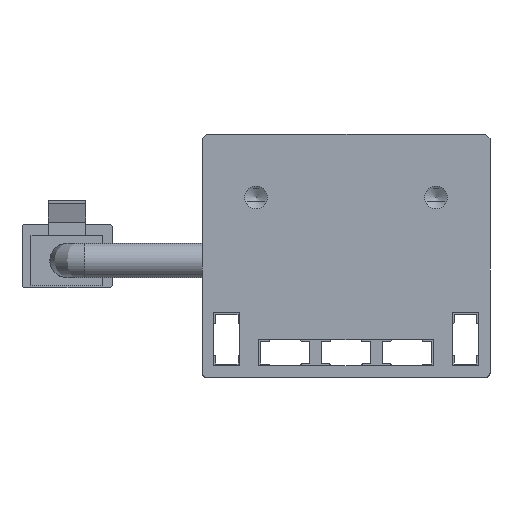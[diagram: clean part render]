
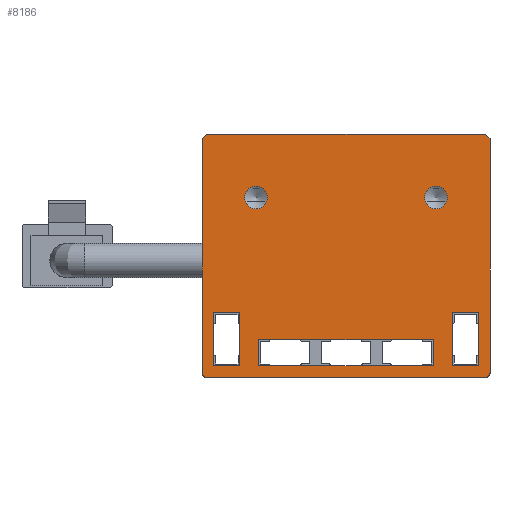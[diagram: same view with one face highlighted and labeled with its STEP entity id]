
A CAD part, front view. The second image highlights one B-rep face of the part: STEP entity #8186.
In plain terms, the highlighted planar face has unit normal (0, -1, 0).
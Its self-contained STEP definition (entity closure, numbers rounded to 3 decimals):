
#73=FACE_BOUND('',#1267,.T.);
#74=FACE_BOUND('',#1268,.T.);
#75=FACE_BOUND('',#1269,.T.);
#76=FACE_BOUND('',#1270,.T.);
#77=FACE_BOUND('',#1271,.T.);
#415=CIRCLE('',#8878,1.265);
#417=CIRCLE('',#8882,1.265);
#419=CIRCLE('',#8897,0.5);
#421=CIRCLE('',#8905,0.5);
#836=FACE_OUTER_BOUND('',#1266,.T.);
#1266=EDGE_LOOP('',(#7410,#7411,#7412,#7413,#7414,#7415,#7416,#7417));
#1267=EDGE_LOOP('',(#7418));
#1268=EDGE_LOOP('',(#7419));
#1269=EDGE_LOOP('',(#7420,#7421,#7422,#7423));
#1270=EDGE_LOOP('',(#7424,#7425,#7426,#7427));
#1271=EDGE_LOOP('',(#7428,#7429,#7430,#7431));
#2172=LINE('',#13450,#3109);
#2175=LINE('',#13456,#3112);
#2178=LINE('',#13462,#3115);
#2181=LINE('',#13466,#3118);
#2184=LINE('',#13474,#3121);
#2187=LINE('',#13480,#3124);
#2190=LINE('',#13486,#3127);
#2193=LINE('',#13490,#3130);
#2196=LINE('',#13498,#3133);
#2199=LINE('',#13504,#3136);
#2202=LINE('',#13510,#3139);
#2205=LINE('',#13514,#3142);
#2209=LINE('',#13528,#3146);
#2212=LINE('',#13534,#3149);
#2215=LINE('',#13540,#3152);
#2218=LINE('',#13546,#3155);
#2221=LINE('',#13552,#3158);
#2225=LINE('',#13562,#3162);
#3109=VECTOR('',#11065,10.);
#3112=VECTOR('',#11070,10.);
#3115=VECTOR('',#11075,10.);
#3118=VECTOR('',#11080,10.);
#3121=VECTOR('',#11085,10.);
#3124=VECTOR('',#11090,10.);
#3127=VECTOR('',#11095,10.);
#3130=VECTOR('',#11100,10.);
#3133=VECTOR('',#11105,10.);
#3136=VECTOR('',#11110,10.);
#3139=VECTOR('',#11115,10.);
#3142=VECTOR('',#11120,10.);
#3146=VECTOR('',#11132,10.);
#3149=VECTOR('',#11137,10.);
#3152=VECTOR('',#11142,10.);
#3155=VECTOR('',#11147,10.);
#3158=VECTOR('',#11152,10.);
#3162=VECTOR('',#11164,10.);
#3903=VERTEX_POINT('',#13431);
#3906=VERTEX_POINT('',#13440);
#3909=VERTEX_POINT('',#13447);
#3910=VERTEX_POINT('',#13449);
#3912=VERTEX_POINT('',#13455);
#3914=VERTEX_POINT('',#13461);
#3917=VERTEX_POINT('',#13471);
#3918=VERTEX_POINT('',#13473);
#3920=VERTEX_POINT('',#13479);
#3922=VERTEX_POINT('',#13485);
#3925=VERTEX_POINT('',#13495);
#3926=VERTEX_POINT('',#13497);
#3928=VERTEX_POINT('',#13503);
#3930=VERTEX_POINT('',#13509);
#3933=VERTEX_POINT('',#13519);
#3934=VERTEX_POINT('',#13521);
#3936=VERTEX_POINT('',#13527);
#3938=VERTEX_POINT('',#13533);
#3940=VERTEX_POINT('',#13539);
#3942=VERTEX_POINT('',#13545);
#3944=VERTEX_POINT('',#13551);
#3946=VERTEX_POINT('',#13557);
#5056=EDGE_CURVE('',#3903,#3903,#415,.T.);
#5060=EDGE_CURVE('',#3906,#3906,#417,.T.);
#5064=EDGE_CURVE('',#3910,#3909,#2172,.T.);
#5067=EDGE_CURVE('',#3912,#3910,#2175,.T.);
#5070=EDGE_CURVE('',#3914,#3912,#2178,.T.);
#5073=EDGE_CURVE('',#3909,#3914,#2181,.T.);
#5076=EDGE_CURVE('',#3918,#3917,#2184,.T.);
#5079=EDGE_CURVE('',#3920,#3918,#2187,.T.);
#5082=EDGE_CURVE('',#3922,#3920,#2190,.T.);
#5085=EDGE_CURVE('',#3917,#3922,#2193,.T.);
#5088=EDGE_CURVE('',#3926,#3925,#2196,.T.);
#5091=EDGE_CURVE('',#3928,#3926,#2199,.T.);
#5094=EDGE_CURVE('',#3930,#3928,#2202,.T.);
#5097=EDGE_CURVE('',#3925,#3930,#2205,.T.);
#5100=EDGE_CURVE('',#3934,#3933,#419,.T.);
#5103=EDGE_CURVE('',#3936,#3934,#2209,.T.);
#5106=EDGE_CURVE('',#3938,#3936,#2212,.T.);
#5109=EDGE_CURVE('',#3940,#3938,#2215,.T.);
#5112=EDGE_CURVE('',#3942,#3940,#2218,.T.);
#5115=EDGE_CURVE('',#3944,#3942,#2221,.T.);
#5118=EDGE_CURVE('',#3946,#3944,#421,.T.);
#5121=EDGE_CURVE('',#3933,#3946,#2225,.T.);
#7410=ORIENTED_EDGE('',*,*,#5121,.T.);
#7411=ORIENTED_EDGE('',*,*,#5118,.T.);
#7412=ORIENTED_EDGE('',*,*,#5115,.T.);
#7413=ORIENTED_EDGE('',*,*,#5112,.T.);
#7414=ORIENTED_EDGE('',*,*,#5109,.T.);
#7415=ORIENTED_EDGE('',*,*,#5106,.T.);
#7416=ORIENTED_EDGE('',*,*,#5103,.T.);
#7417=ORIENTED_EDGE('',*,*,#5100,.T.);
#7418=ORIENTED_EDGE('',*,*,#5056,.T.);
#7419=ORIENTED_EDGE('',*,*,#5060,.T.);
#7420=ORIENTED_EDGE('',*,*,#5097,.T.);
#7421=ORIENTED_EDGE('',*,*,#5094,.T.);
#7422=ORIENTED_EDGE('',*,*,#5091,.T.);
#7423=ORIENTED_EDGE('',*,*,#5088,.T.);
#7424=ORIENTED_EDGE('',*,*,#5085,.T.);
#7425=ORIENTED_EDGE('',*,*,#5082,.T.);
#7426=ORIENTED_EDGE('',*,*,#5079,.T.);
#7427=ORIENTED_EDGE('',*,*,#5076,.T.);
#7428=ORIENTED_EDGE('',*,*,#5073,.T.);
#7429=ORIENTED_EDGE('',*,*,#5070,.T.);
#7430=ORIENTED_EDGE('',*,*,#5067,.T.);
#7431=ORIENTED_EDGE('',*,*,#5064,.T.);
#7770=PLANE('',#8907);
#8186=ADVANCED_FACE('',(#836,#73,#74,#75,#76,#77),#7770,.T.);
#8878=AXIS2_PLACEMENT_3D('',#13432,#11048,#11049);
#8882=AXIS2_PLACEMENT_3D('',#13441,#11058,#11059);
#8897=AXIS2_PLACEMENT_3D('',#13522,#11126,#11127);
#8905=AXIS2_PLACEMENT_3D('',#13558,#11158,#11159);
#8907=AXIS2_PLACEMENT_3D('',#13563,#11165,#11166);
#11048=DIRECTION('center_axis',(0.,1.,0.));
#11049=DIRECTION('ref_axis',(0.,0.,-1.));
#11058=DIRECTION('center_axis',(0.,1.,0.));
#11059=DIRECTION('ref_axis',(0.,0.,-1.));
#11065=DIRECTION('',(0.,0.,-1.));
#11070=DIRECTION('',(1.,0.,0.));
#11075=DIRECTION('',(0.,0.,1.));
#11080=DIRECTION('',(-1.,0.,0.));
#11085=DIRECTION('',(0.,0.,-1.));
#11090=DIRECTION('',(1.,0.,0.));
#11095=DIRECTION('',(0.,0.,1.));
#11100=DIRECTION('',(-1.,0.,0.));
#11105=DIRECTION('',(0.,0.,-1.));
#11110=DIRECTION('',(1.,0.,0.));
#11115=DIRECTION('',(0.,0.,1.));
#11120=DIRECTION('',(-1.,0.,0.));
#11126=DIRECTION('center_axis',(0.,-1.,0.));
#11127=DIRECTION('ref_axis',(-1.,0.,0.));
#11132=DIRECTION('',(0.,0.,-1.));
#11137=DIRECTION('',(-0.707,0.,-0.707));
#11142=DIRECTION('',(-1.,0.,0.));
#11147=DIRECTION('',(-0.707,0.,0.707));
#11152=DIRECTION('',(0.,0.,1.));
#11158=DIRECTION('center_axis',(0.,-1.,0.));
#11159=DIRECTION('ref_axis',(0.,0.,-1.));
#11164=DIRECTION('',(1.,0.,0.));
#11165=DIRECTION('center_axis',(0.,-1.,0.));
#11166=DIRECTION('ref_axis',(1.,0.,0.));
#13431=CARTESIAN_POINT('',(-10.,-92.5,21.265));
#13432=CARTESIAN_POINT('Origin',(-10.,-92.5,20.));
#13440=CARTESIAN_POINT('',(10.,-92.5,21.265));
#13441=CARTESIAN_POINT('Origin',(10.,-92.5,20.));
#13447=CARTESIAN_POINT('',(9.7,-92.5,1.3));
#13449=CARTESIAN_POINT('',(9.7,-92.5,4.2));
#13450=CARTESIAN_POINT('',(9.7,-92.5,4.2));
#13455=CARTESIAN_POINT('',(-9.7,-92.5,4.2));
#13456=CARTESIAN_POINT('',(-9.7,-92.5,4.2));
#13461=CARTESIAN_POINT('',(-9.7,-92.5,1.3));
#13462=CARTESIAN_POINT('',(-9.7,-92.5,1.3));
#13466=CARTESIAN_POINT('',(9.7,-92.5,1.3));
#13471=CARTESIAN_POINT('',(-11.8,-92.5,1.3));
#13473=CARTESIAN_POINT('',(-11.8,-92.5,7.2));
#13474=CARTESIAN_POINT('',(-11.8,-92.5,7.2));
#13479=CARTESIAN_POINT('',(-14.7,-92.5,7.2));
#13480=CARTESIAN_POINT('',(-14.7,-92.5,7.2));
#13485=CARTESIAN_POINT('',(-14.7,-92.5,1.3));
#13486=CARTESIAN_POINT('',(-14.7,-92.5,1.3));
#13490=CARTESIAN_POINT('',(-11.8,-92.5,1.3));
#13495=CARTESIAN_POINT('',(14.7,-92.5,1.3));
#13497=CARTESIAN_POINT('',(14.7,-92.5,7.2));
#13498=CARTESIAN_POINT('',(14.7,-92.5,7.2));
#13503=CARTESIAN_POINT('',(11.8,-92.5,7.2));
#13504=CARTESIAN_POINT('',(11.8,-92.5,7.2));
#13509=CARTESIAN_POINT('',(11.8,-92.5,1.3));
#13510=CARTESIAN_POINT('',(11.8,-92.5,1.3));
#13514=CARTESIAN_POINT('',(14.7,-92.5,1.3));
#13519=CARTESIAN_POINT('',(-15.5,-92.5,0.));
#13521=CARTESIAN_POINT('',(-16.,-92.5,0.5));
#13522=CARTESIAN_POINT('Origin',(-15.5,-92.5,0.5));
#13527=CARTESIAN_POINT('',(-16.,-92.5,26.5));
#13528=CARTESIAN_POINT('',(-16.,-92.5,0.5));
#13533=CARTESIAN_POINT('',(-15.5,-92.5,27.));
#13534=CARTESIAN_POINT('',(-16.,-92.5,26.5));
#13539=CARTESIAN_POINT('',(15.5,-92.5,27.));
#13540=CARTESIAN_POINT('',(-15.5,-92.5,27.));
#13545=CARTESIAN_POINT('',(16.,-92.5,26.5));
#13546=CARTESIAN_POINT('',(15.5,-92.5,27.));
#13551=CARTESIAN_POINT('',(16.,-92.5,0.5));
#13552=CARTESIAN_POINT('',(16.,-92.5,26.5));
#13557=CARTESIAN_POINT('',(15.5,-92.5,0.));
#13558=CARTESIAN_POINT('Origin',(15.5,-92.5,0.5));
#13562=CARTESIAN_POINT('',(15.5,-92.5,0.));
#13563=CARTESIAN_POINT('Origin',(0.,-92.5,13.5));
